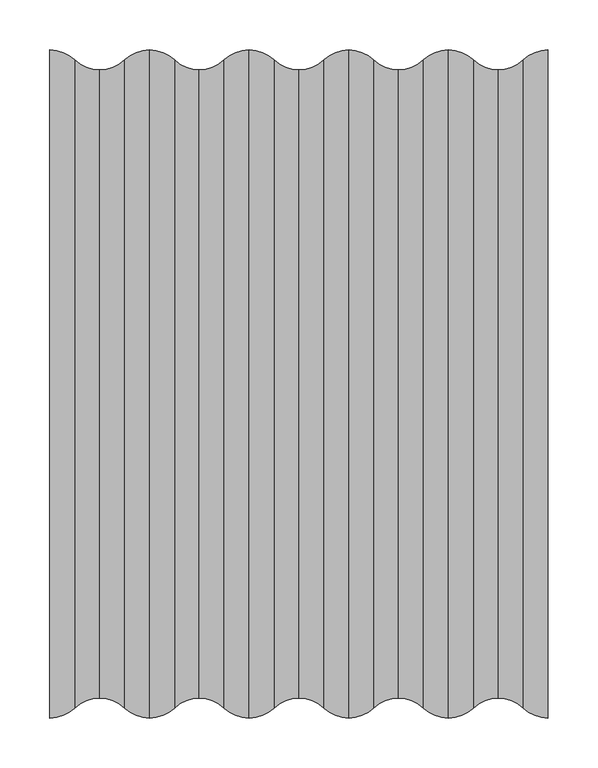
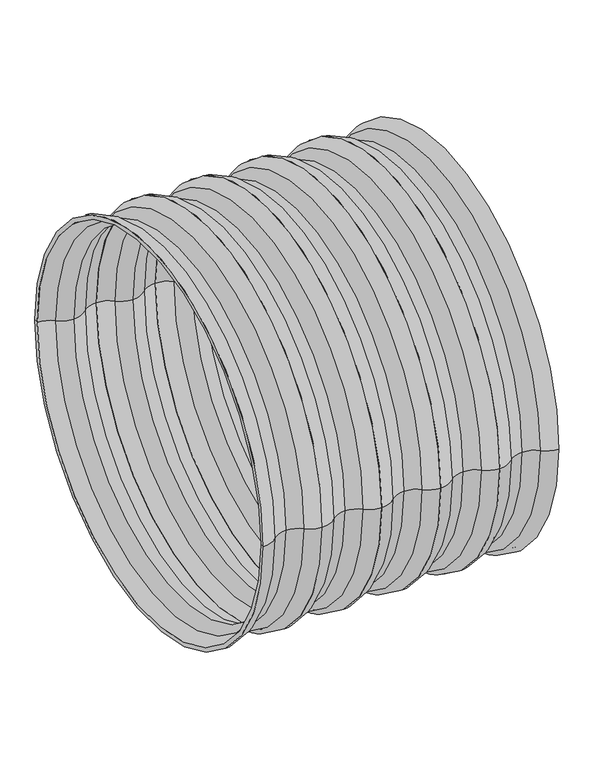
"""IFC4 building model written with IfcOpenShell, lengths in millimetres: pipe fitting geometry, Z_PIF_UN_Q-Bic_Plus_Shaft_Pipe_Wavin_(nested) : PP, RAL8012, ø600mm."""

import ifcopenshell
import ifcopenshell.guid

model = None  # the IFC model being written
_history = None  # IfcOwnerHistory: only IFC2X3 demands one
_inside = {}  # id of a spatial element -> (the spatial element, [elements in it])
_under = {}  # id of a project, library or spatial element -> (it, [spatial elements below it])
_declared = {}  # id of a project -> (the project, [libraries it declares])
_typed = {}  # id of a type object -> (the type object, [elements of that type])
_made_of = {}  # id of a material, layer set ... -> (it, [elements and type objects made of it])


def new_model(schema):
    """Start an empty IFC model of exactly this schema.

    Asked for "IFC4X3", IfcOpenShell would pick the latest addendum, in which some entities
    have other attributes; the version numbers below select the first issue.
    IFC2X3 requires an IfcOwnerHistory on every rooted entity: one is made here for all.
    """
    global model, _history
    if schema == "IFC4X3":
        model = ifcopenshell.file(schema_version=(4, 3, 0, 0))
    else:
        model = ifcopenshell.file(schema=schema)
    _inside.clear()
    _under.clear()
    _declared.clear()
    _typed.clear()
    _made_of.clear()
    _history = None
    if model.schema == "IFC2X3":
        org = make("IfcOrganization", Name="unknown")
        user = make(
            "IfcPersonAndOrganization",
            ThePerson=make("IfcPerson", FamilyName="unknown"),
            TheOrganization=org,
        )
        app = make(
            "IfcApplication",
            ApplicationDeveloper=org,
            Version="unknown",
            ApplicationFullName="unknown",
            ApplicationIdentifier="unknown",
        )
        _history = make(
            "IfcOwnerHistory",
            OwningUser=user,
            OwningApplication=app,
            ChangeAction="ADDED",
            CreationDate=0,
        )
    return model


def make(cls, **values):
    """One entity of the class cls with the attributes given. An attribute that is None is left unset."""
    return model.create_entity(
        cls, **{name: value for name, value in values.items() if value is not None}
    )


def rooted(cls, **values):
    """An entity with a GlobalId (a new one), such as an element, a storey or a relation."""
    return make(cls, GlobalId=ifcopenshell.guid.new(), OwnerHistory=_history, **values)


def si_unit(unit_type, name, prefix=None):
    """IfcSIUnit, for example si_unit("LENGTHUNIT", "METRE", prefix="MILLI")."""
    return make("IfcSIUnit", UnitType=unit_type, Prefix=prefix, Name=name)


def assignment(units):
    """IfcUnitAssignment: the units of a project."""
    return None if units is None else make("IfcUnitAssignment", Units=units)


def point(xyz):
    """IfcCartesianPoint."""
    return None if xyz is None else make("IfcCartesianPoint", Coordinates=xyz)


def direction(xyz):
    """IfcDirection."""
    return None if xyz is None else make("IfcDirection", DirectionRatios=xyz)


def frame(location, z_axis=None, x_axis=None):
    """IfcAxis2Placement3D, a coordinate frame: its origin and axes. An axis left out is left unset."""
    return make(
        "IfcAxis2Placement3D",
        Location=point(location),
        Axis=direction(z_axis),
        RefDirection=direction(x_axis),
    )


def origin():
    """The frame at (0, 0, 0) with its axes left unset."""
    return frame((0.0, 0.0, 0.0))


def place(relative_to, where):
    """IfcLocalPlacement: puts the frame where relative to a parent placement (None: the world)."""
    return make(
        "IfcLocalPlacement", PlacementRelTo=relative_to, RelativePlacement=where
    )


def context(
    kind, dimensions, precision=None, world=None, true_north=None, identifier=None
):
    """IfcGeometricRepresentationContext, for example the 3D "Model" context."""
    return make(
        "IfcGeometricRepresentationContext",
        ContextIdentifier=identifier,
        ContextType=kind,
        CoordinateSpaceDimension=dimensions,
        Precision=precision,
        WorldCoordinateSystem=world,
        TrueNorth=true_north,
    )


def project(units=None, contexts=None):
    """IfcProject with its units and contexts."""
    return rooted(
        "IfcProject",
        Name="project",
        RepresentationContexts=contexts,
        UnitsInContext=assignment(units),
    )


def spatial(cls, under=None, at=None, **own):
    """A site, building, storey or space (cls), placed at a placement, below another one or the project."""
    s = rooted(cls, ObjectPlacement=at, **own)
    if under is not None:
        _under.setdefault(under.id(), (under, []))[1].append(s)
    return s


def circle_curve(where, radius):
    """IfcCircle in the frame where."""
    return make("IfcCircle", Position=where, Radius=radius)


def ellipse_curve(where, semi_axis1, semi_axis2):
    """IfcEllipse in the frame where."""
    return make(
        "IfcEllipse", Position=where, SemiAxis1=semi_axis1, SemiAxis2=semi_axis2
    )


def trimmed(basis, trim1, trim2, sense, master):
    """IfcTrimmedCurve: the piece of a basis curve between two trims."""
    return make(
        "IfcTrimmedCurve",
        BasisCurve=basis,
        Trim1=trim1,
        Trim2=trim2,
        SenseAgreement=sense,
        MasterRepresentation=master,
    )


def shape(context_of_items, identifier, shape_type, items):
    """IfcShapeRepresentation: the items that make up one representation, for example the "Body"."""
    return make(
        "IfcShapeRepresentation",
        ContextOfItems=context_of_items,
        RepresentationIdentifier=identifier,
        RepresentationType=shape_type,
        Items=items,
    )


def source(mapping_origin, context_of_items, identifier, shape_type, items):
    """IfcRepresentationMap: a shape defined once, which mapped items show again and again."""
    return make(
        "IfcRepresentationMap",
        MappingOrigin=mapping_origin,
        MappedRepresentation=shape(context_of_items, identifier, shape_type, items),
    )


def transform(
    local_origin,
    x_axis=None,
    y_axis=None,
    z_axis=None,
    scale=None,
    scale2=None,
    scale3=None,
    uniform=True,
):
    """IfcCartesianTransformationOperator3D, or its non-uniform kind. x_axis, y_axis, z_axis: its Axis1, 2, 3."""
    if uniform:
        return make(
            "IfcCartesianTransformationOperator3D",
            Axis1=direction(x_axis),
            Axis2=direction(y_axis),
            LocalOrigin=point(local_origin),
            Scale=scale,
            Axis3=direction(z_axis),
        )
    return make(
        "IfcCartesianTransformationOperator3DnonUniform",
        Axis1=direction(x_axis),
        Axis2=direction(y_axis),
        LocalOrigin=point(local_origin),
        Scale=scale,
        Axis3=direction(z_axis),
        Scale2=scale2,
        Scale3=scale3,
    )


def mapped(mapping_source, mapping_target):
    """IfcMappedItem: shows the shape of a source again, moved by a transform."""
    return make(
        "IfcMappedItem", MappingSource=mapping_source, MappingTarget=mapping_target
    )


def made_of(thing, what):
    """Note that an element or type object is made of a material, layer set ...; save() writes the relation."""
    if what is not None:
        _made_of.setdefault(what.id(), (what, []))[1].append(thing)
    return thing


def element(
    cls,
    number,
    at=None,
    inside=None,
    cuts=None,
    type_object=None,
    material=None,
    context=None,
    identifier="Body",
    shape_type=None,
    held_by="IfcProductDefinitionShape",
    body=None,
    shapes=None,
    **own,
):
    """One element of the class cls, such as IfcWall. Its Tag is "e" and its number.

    at: its placement. inside: the storey or other place that contains it. cuts: it is an
    opening in that element (IfcRelVoidsElement). A single representation is given by context,
    identifier, shape_type and body (its items); several are given by shapes. held_by: the class
    of the entity that holds the representations. save() writes the other relations.
    """
    e = rooted(cls, Tag="e%d" % number, ObjectPlacement=at, **own)
    if body is not None:
        shapes = [shape(context, identifier, shape_type, body)]
    if shapes is not None:
        e.Representation = make(held_by, Representations=shapes)
    if inside is not None:
        _inside.setdefault(inside.id(), (inside, []))[1].append(e)
    if cuts is not None:
        rooted(
            "IfcRelVoidsElement", RelatingBuildingElement=cuts, RelatedOpeningElement=e
        )
    if type_object is not None:
        _typed.setdefault(type_object.id(), (type_object, []))[1].append(e)
    return made_of(e, material)


def aggregate(whole, parts):
    """IfcRelAggregates: a whole, such as a stair, and the parts it consists of."""
    return rooted("IfcRelAggregates", RelatingObject=whole, RelatedObjects=parts)


def save(model, path):
    """Write the relations noted so far, then the file.

    IfcRelAggregates (storeys below a building ...), IfcRelContainedInSpatialStructure (elements
    in a storey), IfcRelDefinesByType, IfcRelAssociatesMaterial and IfcRelDeclares: one each for
    every whole, place, type object, material and project.
    """
    for whole, parts in _under.values():
        aggregate(whole, parts)
    for where, things in _inside.values():
        rooted(
            "IfcRelContainedInSpatialStructure",
            RelatedElements=things,
            RelatingStructure=where,
        )
    for kind, things in _typed.values():
        rooted("IfcRelDefinesByType", RelatedObjects=things, RelatingType=kind)
    for what, things in _made_of.values():
        rooted("IfcRelAssociatesMaterial", RelatedObjects=things, RelatingMaterial=what)
    for by, libraries in _declared.values():
        rooted("IfcRelDeclares", RelatingContext=by, RelatedDefinitions=libraries)
    model.write(path)


def plane_surface(at):
    """IfcPlane: the flat surface through the origin of the frame at, square to its z axis."""
    return make("IfcPlane", Position=at)


def revolved_surface(curve, axis_point, axis_direction):
    """IfcSurfaceOfRevolution: the curve turned about the line through axis_point along axis_direction."""
    return make(
        "IfcSurfaceOfRevolution",
        SweptCurve=make("IfcArbitraryOpenProfileDef", ProfileType="CURVE", Curve=curve),
        AxisPosition=make("IfcAxis1Placement", Location=point(axis_point), Axis=direction(axis_direction)),
    )


def advanced_brep(points, edges, surfaces, faces):
    """IfcAdvancedBrep: a solid bounded by faces that lie on surfaces and meet in shared edges.

    An edge is (start, end): straight between two places in points (the first is 0);
    or (start, end, curve); or (start, end, curve, False) where it runs against its curve.
    A face is (place in surfaces, loops), or (place, loops, False) where it looks against
    its surface's normal. A loop lists edges by number (the first is 1), with a minus sign
    where the edge is run from its end to its start. The first loop is the outer one.
    """
    corners = [point(p) for p in points]
    vertices = [make("IfcVertexPoint", VertexGeometry=c) for c in corners]
    made = []
    for start, end, *more in edges:
        made.append(
            make(
                "IfcEdgeCurve",
                EdgeStart=vertices[start],
                EdgeEnd=vertices[end],
                EdgeGeometry=more[0] if more else make("IfcPolyline", Points=[corners[start], corners[end]]),
                SameSense=more[1] if len(more) > 1 else True,
            )
        )
    hull = []
    for where, loops, *sense in faces:
        bounds = []
        for j, loop in enumerate(loops):
            ring = [make("IfcOrientedEdge", EdgeElement=made[abs(k) - 1], Orientation=k > 0) for k in loop]
            bounds.append(
                make(
                    "IfcFaceOuterBound" if j == 0 else "IfcFaceBound",
                    Bound=make("IfcEdgeLoop", EdgeList=ring),
                    Orientation=True,
                )
            )
        hull.append(make("IfcAdvancedFace", Bounds=bounds, FaceSurface=surfaces[where], SameSense=sense[0] if sense else True))
    return make("IfcAdvancedBrep", Outer=make("IfcClosedShell", CfsFaces=hull))


def pipe_fitting_6d64b734(model_context):
    return source(origin(), model_context, "Body", "AdvancedBrep", [
        advanced_brep(
        [(800.0, -335.0, 0.0), (800.0, 335.0, 0.0), (825.0, 325.0, 0.0), (825.0, -325.0, 0.0), (800.0, -328.0, 0.0), (800.0, 328.0, 0.0), (825.0, -318.0, 0.0), (825.0, 318.0, 0.0), (850.0, -308.0, 0.0), (850.0, 308.0, 0.0), (875.0, -318.0, 0.0), (875.0, 318.0, 0.0), (900.0, -328.0, 0.0), (900.0, 328.0, 0.0), (900.0, -335.0, 0.0), (900.0, 335.0, 0.0), (875.0, -325.0, 0.0), (875.0, 325.0, 0.0), (850.0, -315.0, 0.0), (850.0, 315.0, 0.0)],
        [
            (0, 1, circle_curve(frame((800.0, 0.0, 0.0), z_axis=(1.0, 0.0, 0.0), x_axis=(0.0, 1.0, 0.0)), 335.0)),
            (1, 2, circle_curve(frame((800.0, 298.75, 0.0), z_axis=(0.0, 0.0, -1.0), x_axis=(1.0, 0.0, 0.0)), 36.25)),
            (2, 3, circle_curve(frame((825.0, 0.0, 0.0), z_axis=(-1.0, 0.0, 0.0), x_axis=(0.0, 1.0, 0.0)), 325.0)),
            (3, 0, circle_curve(frame((800.0, -298.75, 0.0), z_axis=(0.0, 0.0, -1.0), x_axis=(1.0, 0.0, 0.0)), 36.25)),
            (1, 0, circle_curve(frame((800.0, 0.0, 0.0), z_axis=(1.0, 0.0, 0.0), x_axis=(0.0, 1.0, 0.0)), 335.0)),
            (3, 2, circle_curve(frame((825.0, 0.0, 0.0), z_axis=(-1.0, 0.0, 0.0), x_axis=(0.0, 1.0, 0.0)), 325.0)),
            (4, 5, circle_curve(frame((800.0, 0.0, 0.0), z_axis=(1.0, 0.0, 0.0), x_axis=(0.0, 1.0, 0.0)), 328.0)),
            (5, 1),
            (0, 4),
            (5, 4, circle_curve(frame((800.0, 0.0, 0.0), z_axis=(1.0, 0.0, 0.0), x_axis=(0.0, 1.0, 0.0)), 328.0)),
            (6, 7, circle_curve(frame((825.0, 0.0, 0.0), z_axis=(1.0, 0.0, 0.0), x_axis=(0.0, 1.0, 0.0)), 318.0)),
            (7, 5, circle_curve(frame((800.0, 291.75, 0.0), z_axis=(0.0, 0.0, 1.0), x_axis=(1.0, 0.0, 0.0)), 36.25)),
            (4, 6, circle_curve(frame((800.0, -291.75, 0.0), z_axis=(0.0, 0.0, 1.0), x_axis=(1.0, 0.0, 0.0)), 36.25)),
            (7, 6, circle_curve(frame((825.0, 0.0, 0.0), z_axis=(1.0, 0.0, 0.0), x_axis=(0.0, 1.0, 0.0)), 318.0)),
            (8, 9, circle_curve(frame((850.0, 0.0, 0.0), z_axis=(1.0, 0.0, 0.0), x_axis=(0.0, 1.0, 0.0)), 308.0)),
            (9, 7, circle_curve(frame((850.0, 344.25, 0.0), z_axis=(0.0, 0.0, -1.0), x_axis=(1.0, 0.0, 0.0)), 36.25)),
            (6, 8, circle_curve(frame((850.0, -344.25, 0.0), z_axis=(0.0, 0.0, -1.0), x_axis=(1.0, 0.0, 0.0)), 36.25)),
            (9, 8, circle_curve(frame((850.0, 0.0, 0.0), z_axis=(1.0, 0.0, 0.0), x_axis=(0.0, 1.0, 0.0)), 308.0)),
            (10, 11, circle_curve(frame((875.0, 0.0, 0.0), z_axis=(1.0, 0.0, 0.0), x_axis=(0.0, 1.0, 0.0)), 318.0)),
            (11, 9, circle_curve(frame((850.0, 344.25, 0.0), z_axis=(0.0, 0.0, -1.0), x_axis=(1.0, 0.0, 0.0)), 36.25)),
            (8, 10, circle_curve(frame((850.0, -344.25, 0.0), z_axis=(0.0, 0.0, -1.0), x_axis=(1.0, 0.0, 0.0)), 36.25)),
            (11, 10, circle_curve(frame((875.0, 0.0, 0.0), z_axis=(1.0, 0.0, 0.0), x_axis=(0.0, 1.0, 0.0)), 318.0)),
            (12, 13, circle_curve(frame((900.0, 0.0, 0.0), z_axis=(1.0, 0.0, 0.0), x_axis=(0.0, 1.0, 0.0)), 328.0)),
            (13, 11, circle_curve(frame((900.0, 291.75, 0.0), z_axis=(0.0, 0.0, 1.0), x_axis=(1.0, 0.0, 0.0)), 36.25)),
            (10, 12, circle_curve(frame((900.0, -291.75, 0.0), z_axis=(0.0, 0.0, 1.0), x_axis=(1.0, 0.0, 0.0)), 36.25)),
            (13, 12, circle_curve(frame((900.0, 0.0, 0.0), z_axis=(1.0, 0.0, 0.0), x_axis=(0.0, 1.0, 0.0)), 328.0)),
            (14, 15, circle_curve(frame((900.0, 0.0, 0.0), z_axis=(1.0, 0.0, 0.0), x_axis=(0.0, 1.0, 0.0)), 335.0)),
            (15, 13),
            (12, 14),
            (15, 14, circle_curve(frame((900.0, 0.0, 0.0), z_axis=(1.0, 0.0, 0.0), x_axis=(0.0, 1.0, 0.0)), 335.0)),
            (16, 17, circle_curve(frame((875.0, 0.0, 0.0), z_axis=(1.0, 0.0, 0.0), x_axis=(0.0, 1.0, 0.0)), 325.0)),
            (17, 15, circle_curve(frame((900.0, 298.75, 0.0), z_axis=(0.0, 0.0, -1.0), x_axis=(1.0, 0.0, 0.0)), 36.25)),
            (14, 16, circle_curve(frame((900.0, -298.75, 0.0), z_axis=(0.0, 0.0, -1.0), x_axis=(1.0, 0.0, 0.0)), 36.25)),
            (17, 16, circle_curve(frame((875.0, 0.0, 0.0), z_axis=(1.0, 0.0, 0.0), x_axis=(0.0, 1.0, 0.0)), 325.0)),
            (18, 19, circle_curve(frame((850.0, 0.0, 0.0), z_axis=(1.0, 0.0, 0.0), x_axis=(0.0, 1.0, 0.0)), 315.0)),
            (19, 17, circle_curve(frame((850.0, 351.25, 0.0), z_axis=(0.0, 0.0, 1.0), x_axis=(1.0, 0.0, 0.0)), 36.25)),
            (16, 18, circle_curve(frame((850.0, -351.25, 0.0), z_axis=(0.0, 0.0, 1.0), x_axis=(1.0, 0.0, 0.0)), 36.25)),
            (19, 18, circle_curve(frame((850.0, 0.0, 0.0), z_axis=(1.0, 0.0, 0.0), x_axis=(0.0, 1.0, 0.0)), 315.0)),
            (2, 19, circle_curve(frame((850.0, 351.25, 0.0), z_axis=(0.0, 0.0, 1.0), x_axis=(1.0, 0.0, 0.0)), 36.25)),
            (18, 3, circle_curve(frame((850.0, -351.25, 0.0), z_axis=(0.0, 0.0, 1.0), x_axis=(1.0, 0.0, 0.0)), 36.25)),
        ],
        [
            revolved_surface(trimmed(ellipse_curve(frame((800.0, 298.75, 0.0), z_axis=(0.0, 0.0, 1.0), x_axis=(1.0, 0.0, 0.0)), 36.25, 36.25), [point((825.0, 325.0, 0.0))], [point((800.0, 335.0, 0.0))], True, "CARTESIAN"), (750.0, 0.0, 0.0), (-1.0, 0.0, 0.0)),
            plane_surface(frame((800.0, 0.0, 0.0), z_axis=(-1.0, 0.0, 0.0), x_axis=(0.0, 1.0, 0.0))),
            revolved_surface(trimmed(ellipse_curve(frame((800.0, 291.75, 0.0), z_axis=(0.0, 0.0, -1.0), x_axis=(1.0, 0.0, 0.0)), 36.25, 36.25), [point((800.0, 328.0, 0.0))], [point((825.0, 318.0, 0.0))], True, "CARTESIAN"), (750.0, 0.0, 0.0), (-1.0, 0.0, 0.0)),
            revolved_surface(trimmed(ellipse_curve(frame((850.0, 344.25, 0.0), z_axis=(0.0, 0.0, 1.0), x_axis=(1.0, 0.0, 0.0)), 36.25, 36.25), [point((825.0, 318.0, 0.0))], [point((850.0, 308.0, 0.0))], True, "CARTESIAN"), (750.0, 0.0, 0.0), (-1.0, 0.0, 0.0)),
            revolved_surface(trimmed(ellipse_curve(frame((850.0, 344.25, 0.0), z_axis=(0.0, 0.0, 1.0), x_axis=(1.0, 0.0, 0.0)), 36.25, 36.25), [point((850.0, 308.0, 0.0))], [point((875.0, 318.0, 0.0))], True, "CARTESIAN"), (750.0, 0.0, 0.0), (-1.0, 0.0, 0.0)),
            revolved_surface(trimmed(ellipse_curve(frame((900.0, 291.75, 0.0), z_axis=(0.0, 0.0, -1.0), x_axis=(1.0, 0.0, 0.0)), 36.25, 36.25), [point((875.0, 318.0, 0.0))], [point((900.0, 328.0, 0.0))], True, "CARTESIAN"), (750.0, 0.0, 0.0), (-1.0, 0.0, 0.0)),
            plane_surface(frame((900.0, 0.0, 0.0), z_axis=(1.0, 0.0, 0.0), x_axis=(0.0, 1.0, 0.0))),
            revolved_surface(trimmed(ellipse_curve(frame((900.0, 298.75, 0.0), z_axis=(0.0, 0.0, 1.0), x_axis=(1.0, 0.0, 0.0)), 36.25, 36.25), [point((900.0, 335.0, 0.0))], [point((875.0, 325.0, 0.0))], True, "CARTESIAN"), (750.0, 0.0, 0.0), (-1.0, 0.0, 0.0)),
            revolved_surface(trimmed(ellipse_curve(frame((850.0, 351.25, 0.0), z_axis=(0.0, 0.0, -1.0), x_axis=(1.0, 0.0, 0.0)), 36.25, 36.25), [point((875.0, 325.0, 0.0))], [point((850.0, 315.0, 0.0))], True, "CARTESIAN"), (750.0, 0.0, 0.0), (-1.0, 0.0, 0.0)),
            revolved_surface(trimmed(ellipse_curve(frame((850.0, 351.25, 0.0), z_axis=(0.0, 0.0, -1.0), x_axis=(1.0, 0.0, 0.0)), 36.25, 36.25), [point((850.0, 315.0, 0.0))], [point((825.0, 325.0, 0.0))], True, "CARTESIAN"), (750.0, 0.0, 0.0), (-1.0, 0.0, 0.0)),
        ],
        [
            (0, [[1, 2, 3, 4]]),
            (0, [[5, -4, 6, -2]]),
            (1, [[7, 8, -1, 9]]),
            (1, [[10, -9, -5, -8]]),
            (2, [[11, 12, -7, 13]]),
            (2, [[14, -13, -10, -12]]),
            (3, [[15, 16, -11, 17]]),
            (3, [[18, -17, -14, -16]]),
            (4, [[19, 20, -15, 21]]),
            (4, [[22, -21, -18, -20]]),
            (5, [[23, 24, -19, 25]]),
            (5, [[26, -25, -22, -24]]),
            (6, [[27, 28, -23, 29]]),
            (6, [[30, -29, -26, -28]]),
            (7, [[31, 32, -27, 33]]),
            (7, [[34, -33, -30, -32]]),
            (8, [[35, 36, -31, 37]]),
            (8, [[38, -37, -34, -36]]),
            (9, [[-3, 39, -35, 40]]),
            (9, [[-6, -40, -38, -39]]),
        ],
    ),
        advanced_brep(
        [(700.0, -335.0, 0.0), (700.0, 335.0, 0.0), (725.0, 325.0, 0.0), (725.0, -325.0, 0.0), (700.0, -328.0, 0.0), (700.0, 328.0, 0.0), (725.0, -318.0, 0.0), (725.0, 318.0, 0.0), (750.0, -308.0, 0.0), (750.0, 308.0, 0.0), (775.0, -318.0, 0.0), (775.0, 318.0, 0.0), (800.0, -328.0, 0.0), (800.0, 328.0, 0.0), (800.0, -335.0, 0.0), (800.0, 335.0, 0.0), (775.0, -325.0, 0.0), (775.0, 325.0, 0.0), (750.0, -315.0, 0.0), (750.0, 315.0, 0.0)],
        [
            (0, 1, circle_curve(frame((700.0, 0.0, 0.0), z_axis=(1.0, 0.0, 0.0), x_axis=(0.0, 1.0, 0.0)), 335.0)),
            (1, 2, circle_curve(frame((700.0, 298.75, 0.0), z_axis=(0.0, 0.0, -1.0), x_axis=(1.0, 0.0, 0.0)), 36.25)),
            (2, 3, circle_curve(frame((725.0, 0.0, 0.0), z_axis=(-1.0, 0.0, 0.0), x_axis=(0.0, 1.0, 0.0)), 325.0)),
            (3, 0, circle_curve(frame((700.0, -298.75, 0.0), z_axis=(0.0, 0.0, -1.0), x_axis=(1.0, 0.0, 0.0)), 36.25)),
            (1, 0, circle_curve(frame((700.0, 0.0, 0.0), z_axis=(1.0, 0.0, 0.0), x_axis=(0.0, 1.0, 0.0)), 335.0)),
            (3, 2, circle_curve(frame((725.0, 0.0, 0.0), z_axis=(-1.0, 0.0, 0.0), x_axis=(0.0, 1.0, 0.0)), 325.0)),
            (4, 5, circle_curve(frame((700.0, 0.0, 0.0), z_axis=(1.0, 0.0, 0.0), x_axis=(0.0, 1.0, 0.0)), 328.0)),
            (5, 1),
            (0, 4),
            (5, 4, circle_curve(frame((700.0, 0.0, 0.0), z_axis=(1.0, 0.0, 0.0), x_axis=(0.0, 1.0, 0.0)), 328.0)),
            (6, 7, circle_curve(frame((725.0, 0.0, 0.0), z_axis=(1.0, 0.0, 0.0), x_axis=(0.0, 1.0, 0.0)), 318.0)),
            (7, 5, circle_curve(frame((700.0, 291.75, 0.0), z_axis=(0.0, 0.0, 1.0), x_axis=(1.0, 0.0, 0.0)), 36.25)),
            (4, 6, circle_curve(frame((700.0, -291.75, 0.0), z_axis=(0.0, 0.0, 1.0), x_axis=(1.0, 0.0, 0.0)), 36.25)),
            (7, 6, circle_curve(frame((725.0, 0.0, 0.0), z_axis=(1.0, 0.0, 0.0), x_axis=(0.0, 1.0, 0.0)), 318.0)),
            (8, 9, circle_curve(frame((750.0, 0.0, 0.0), z_axis=(1.0, 0.0, 0.0), x_axis=(0.0, 1.0, 0.0)), 308.0)),
            (9, 7, circle_curve(frame((750.0, 344.25, 0.0), z_axis=(0.0, 0.0, -1.0), x_axis=(1.0, 0.0, 0.0)), 36.25)),
            (6, 8, circle_curve(frame((750.0, -344.25, 0.0), z_axis=(0.0, 0.0, -1.0), x_axis=(1.0, 0.0, 0.0)), 36.25)),
            (9, 8, circle_curve(frame((750.0, 0.0, 0.0), z_axis=(1.0, 0.0, 0.0), x_axis=(0.0, 1.0, 0.0)), 308.0)),
            (10, 11, circle_curve(frame((775.0, 0.0, 0.0), z_axis=(1.0, 0.0, 0.0), x_axis=(0.0, 1.0, 0.0)), 318.0)),
            (11, 9, circle_curve(frame((750.0, 344.25, 0.0), z_axis=(0.0, 0.0, -1.0), x_axis=(1.0, 0.0, 0.0)), 36.25)),
            (8, 10, circle_curve(frame((750.0, -344.25, 0.0), z_axis=(0.0, 0.0, -1.0), x_axis=(1.0, 0.0, 0.0)), 36.25)),
            (11, 10, circle_curve(frame((775.0, 0.0, 0.0), z_axis=(1.0, 0.0, 0.0), x_axis=(0.0, 1.0, 0.0)), 318.0)),
            (12, 13, circle_curve(frame((800.0, 0.0, 0.0), z_axis=(1.0, 0.0, 0.0), x_axis=(0.0, 1.0, 0.0)), 328.0)),
            (13, 11, circle_curve(frame((800.0, 291.75, 0.0), z_axis=(0.0, 0.0, 1.0), x_axis=(1.0, 0.0, 0.0)), 36.25)),
            (10, 12, circle_curve(frame((800.0, -291.75, 0.0), z_axis=(0.0, 0.0, 1.0), x_axis=(1.0, 0.0, 0.0)), 36.25)),
            (13, 12, circle_curve(frame((800.0, 0.0, 0.0), z_axis=(1.0, 0.0, 0.0), x_axis=(0.0, 1.0, 0.0)), 328.0)),
            (14, 15, circle_curve(frame((800.0, 0.0, 0.0), z_axis=(1.0, 0.0, 0.0), x_axis=(0.0, 1.0, 0.0)), 335.0)),
            (15, 13),
            (12, 14),
            (15, 14, circle_curve(frame((800.0, 0.0, 0.0), z_axis=(1.0, 0.0, 0.0), x_axis=(0.0, 1.0, 0.0)), 335.0)),
            (16, 17, circle_curve(frame((775.0, 0.0, 0.0), z_axis=(1.0, 0.0, 0.0), x_axis=(0.0, 1.0, 0.0)), 325.0)),
            (17, 15, circle_curve(frame((800.0, 298.75, 0.0), z_axis=(0.0, 0.0, -1.0), x_axis=(1.0, 0.0, 0.0)), 36.25)),
            (14, 16, circle_curve(frame((800.0, -298.75, 0.0), z_axis=(0.0, 0.0, -1.0), x_axis=(1.0, 0.0, 0.0)), 36.25)),
            (17, 16, circle_curve(frame((775.0, 0.0, 0.0), z_axis=(1.0, 0.0, 0.0), x_axis=(0.0, 1.0, 0.0)), 325.0)),
            (18, 19, circle_curve(frame((750.0, 0.0, 0.0), z_axis=(1.0, 0.0, 0.0), x_axis=(0.0, 1.0, 0.0)), 315.0)),
            (19, 17, circle_curve(frame((750.0, 351.25, 0.0), z_axis=(0.0, 0.0, 1.0), x_axis=(1.0, 0.0, 0.0)), 36.25)),
            (16, 18, circle_curve(frame((750.0, -351.25, 0.0), z_axis=(0.0, 0.0, 1.0), x_axis=(1.0, 0.0, 0.0)), 36.25)),
            (19, 18, circle_curve(frame((750.0, 0.0, 0.0), z_axis=(1.0, 0.0, 0.0), x_axis=(0.0, 1.0, 0.0)), 315.0)),
            (2, 19, circle_curve(frame((750.0, 351.25, 0.0), z_axis=(0.0, 0.0, 1.0), x_axis=(1.0, 0.0, 0.0)), 36.25)),
            (18, 3, circle_curve(frame((750.0, -351.25, 0.0), z_axis=(0.0, 0.0, 1.0), x_axis=(1.0, 0.0, 0.0)), 36.25)),
        ],
        [
            revolved_surface(trimmed(ellipse_curve(frame((700.0, 298.75, 0.0), z_axis=(0.0, 0.0, 1.0), x_axis=(1.0, 0.0, 0.0)), 36.25, 36.25), [point((725.0, 325.0, 0.0))], [point((700.0, 335.0, 0.0))], True, "CARTESIAN"), (650.0, 0.0, 0.0), (-1.0, 0.0, 0.0)),
            plane_surface(frame((700.0, 0.0, 0.0), z_axis=(-1.0, 0.0, 0.0), x_axis=(0.0, 1.0, 0.0))),
            revolved_surface(trimmed(ellipse_curve(frame((700.0, 291.75, 0.0), z_axis=(0.0, 0.0, -1.0), x_axis=(1.0, 0.0, 0.0)), 36.25, 36.25), [point((700.0, 328.0, 0.0))], [point((725.0, 318.0, 0.0))], True, "CARTESIAN"), (650.0, 0.0, 0.0), (-1.0, 0.0, 0.0)),
            revolved_surface(trimmed(ellipse_curve(frame((750.0, 344.25, 0.0), z_axis=(0.0, 0.0, 1.0), x_axis=(1.0, 0.0, 0.0)), 36.25, 36.25), [point((725.0, 318.0, 0.0))], [point((750.0, 308.0, 0.0))], True, "CARTESIAN"), (650.0, 0.0, 0.0), (-1.0, 0.0, 0.0)),
            revolved_surface(trimmed(ellipse_curve(frame((750.0, 344.25, 0.0), z_axis=(0.0, 0.0, 1.0), x_axis=(1.0, 0.0, 0.0)), 36.25, 36.25), [point((750.0, 308.0, 0.0))], [point((775.0, 318.0, 0.0))], True, "CARTESIAN"), (650.0, 0.0, 0.0), (-1.0, 0.0, 0.0)),
            revolved_surface(trimmed(ellipse_curve(frame((800.0, 291.75, 0.0), z_axis=(0.0, 0.0, -1.0), x_axis=(1.0, 0.0, 0.0)), 36.25, 36.25), [point((775.0, 318.0, 0.0))], [point((800.0, 328.0, 0.0))], True, "CARTESIAN"), (650.0, 0.0, 0.0), (-1.0, 0.0, 0.0)),
            plane_surface(frame((800.0, 0.0, 0.0), z_axis=(1.0, 0.0, 0.0), x_axis=(0.0, 1.0, 0.0))),
            revolved_surface(trimmed(ellipse_curve(frame((800.0, 298.75, 0.0), z_axis=(0.0, 0.0, 1.0), x_axis=(1.0, 0.0, 0.0)), 36.25, 36.25), [point((800.0, 335.0, 0.0))], [point((775.0, 325.0, 0.0))], True, "CARTESIAN"), (650.0, 0.0, 0.0), (-1.0, 0.0, 0.0)),
            revolved_surface(trimmed(ellipse_curve(frame((750.0, 351.25, 0.0), z_axis=(0.0, 0.0, -1.0), x_axis=(1.0, 0.0, 0.0)), 36.25, 36.25), [point((775.0, 325.0, 0.0))], [point((750.0, 315.0, 0.0))], True, "CARTESIAN"), (650.0, 0.0, 0.0), (-1.0, 0.0, 0.0)),
            revolved_surface(trimmed(ellipse_curve(frame((750.0, 351.25, 0.0), z_axis=(0.0, 0.0, -1.0), x_axis=(1.0, 0.0, 0.0)), 36.25, 36.25), [point((750.0, 315.0, 0.0))], [point((725.0, 325.0, 0.0))], True, "CARTESIAN"), (650.0, 0.0, 0.0), (-1.0, 0.0, 0.0)),
        ],
        [
            (0, [[1, 2, 3, 4]]),
            (0, [[5, -4, 6, -2]]),
            (1, [[7, 8, -1, 9]]),
            (1, [[10, -9, -5, -8]]),
            (2, [[11, 12, -7, 13]]),
            (2, [[14, -13, -10, -12]]),
            (3, [[15, 16, -11, 17]]),
            (3, [[18, -17, -14, -16]]),
            (4, [[19, 20, -15, 21]]),
            (4, [[22, -21, -18, -20]]),
            (5, [[23, 24, -19, 25]]),
            (5, [[26, -25, -22, -24]]),
            (6, [[27, 28, -23, 29]]),
            (6, [[30, -29, -26, -28]]),
            (7, [[31, 32, -27, 33]]),
            (7, [[34, -33, -30, -32]]),
            (8, [[35, 36, -31, 37]]),
            (8, [[38, -37, -34, -36]]),
            (9, [[-3, 39, -35, 40]]),
            (9, [[-6, -40, -38, -39]]),
        ],
    ),
        advanced_brep(
        [(600.0, -335.0, 0.0), (600.0, 335.0, 0.0), (625.0, 325.0, 0.0), (625.0, -325.0, 0.0), (600.0, -328.0, 0.0), (600.0, 328.0, 0.0), (625.0, -318.0, 0.0), (625.0, 318.0, 0.0), (650.0, -308.0, 0.0), (650.0, 308.0, 0.0), (675.0, -318.0, 0.0), (675.0, 318.0, 0.0), (700.0, -328.0, 0.0), (700.0, 328.0, 0.0), (700.0, -335.0, 0.0), (700.0, 335.0, 0.0), (675.0, -325.0, 0.0), (675.0, 325.0, 0.0), (650.0, -315.0, 0.0), (650.0, 315.0, 0.0)],
        [
            (0, 1, circle_curve(frame((600.0, 0.0, 0.0), z_axis=(1.0, 0.0, 0.0), x_axis=(0.0, 1.0, 0.0)), 335.0)),
            (1, 2, circle_curve(frame((600.0, 298.75, 0.0), z_axis=(0.0, 0.0, -1.0), x_axis=(1.0, 0.0, 0.0)), 36.25)),
            (2, 3, circle_curve(frame((625.0, 0.0, 0.0), z_axis=(-1.0, 0.0, 0.0), x_axis=(0.0, 1.0, 0.0)), 325.0)),
            (3, 0, circle_curve(frame((600.0, -298.75, 0.0), z_axis=(0.0, 0.0, -1.0), x_axis=(1.0, 0.0, 0.0)), 36.25)),
            (1, 0, circle_curve(frame((600.0, 0.0, 0.0), z_axis=(1.0, 0.0, 0.0), x_axis=(0.0, 1.0, 0.0)), 335.0)),
            (3, 2, circle_curve(frame((625.0, 0.0, 0.0), z_axis=(-1.0, 0.0, 0.0), x_axis=(0.0, 1.0, 0.0)), 325.0)),
            (4, 5, circle_curve(frame((600.0, 0.0, 0.0), z_axis=(1.0, 0.0, 0.0), x_axis=(0.0, 1.0, 0.0)), 328.0)),
            (5, 1),
            (0, 4),
            (5, 4, circle_curve(frame((600.0, 0.0, 0.0), z_axis=(1.0, 0.0, 0.0), x_axis=(0.0, 1.0, 0.0)), 328.0)),
            (6, 7, circle_curve(frame((625.0, 0.0, 0.0), z_axis=(1.0, 0.0, 0.0), x_axis=(0.0, 1.0, 0.0)), 318.0)),
            (7, 5, circle_curve(frame((600.0, 291.75, 0.0), z_axis=(0.0, 0.0, 1.0), x_axis=(1.0, 0.0, 0.0)), 36.25)),
            (4, 6, circle_curve(frame((600.0, -291.75, 0.0), z_axis=(0.0, 0.0, 1.0), x_axis=(1.0, 0.0, 0.0)), 36.25)),
            (7, 6, circle_curve(frame((625.0, 0.0, 0.0), z_axis=(1.0, 0.0, 0.0), x_axis=(0.0, 1.0, 0.0)), 318.0)),
            (8, 9, circle_curve(frame((650.0, 0.0, 0.0), z_axis=(1.0, 0.0, 0.0), x_axis=(0.0, 1.0, 0.0)), 308.0)),
            (9, 7, circle_curve(frame((650.0, 344.25, 0.0), z_axis=(0.0, 0.0, -1.0), x_axis=(1.0, 0.0, 0.0)), 36.25)),
            (6, 8, circle_curve(frame((650.0, -344.25, 0.0), z_axis=(0.0, 0.0, -1.0), x_axis=(1.0, 0.0, 0.0)), 36.25)),
            (9, 8, circle_curve(frame((650.0, 0.0, 0.0), z_axis=(1.0, 0.0, 0.0), x_axis=(0.0, 1.0, 0.0)), 308.0)),
            (10, 11, circle_curve(frame((675.0, 0.0, 0.0), z_axis=(1.0, 0.0, 0.0), x_axis=(0.0, 1.0, 0.0)), 318.0)),
            (11, 9, circle_curve(frame((650.0, 344.25, 0.0), z_axis=(0.0, 0.0, -1.0), x_axis=(1.0, 0.0, 0.0)), 36.25)),
            (8, 10, circle_curve(frame((650.0, -344.25, 0.0), z_axis=(0.0, 0.0, -1.0), x_axis=(1.0, 0.0, 0.0)), 36.25)),
            (11, 10, circle_curve(frame((675.0, 0.0, 0.0), z_axis=(1.0, 0.0, 0.0), x_axis=(0.0, 1.0, 0.0)), 318.0)),
            (12, 13, circle_curve(frame((700.0, 0.0, 0.0), z_axis=(1.0, 0.0, 0.0), x_axis=(0.0, 1.0, 0.0)), 328.0)),
            (13, 11, circle_curve(frame((700.0, 291.75, 0.0), z_axis=(0.0, 0.0, 1.0), x_axis=(1.0, 0.0, 0.0)), 36.25)),
            (10, 12, circle_curve(frame((700.0, -291.75, 0.0), z_axis=(0.0, 0.0, 1.0), x_axis=(1.0, 0.0, 0.0)), 36.25)),
            (13, 12, circle_curve(frame((700.0, 0.0, 0.0), z_axis=(1.0, 0.0, 0.0), x_axis=(0.0, 1.0, 0.0)), 328.0)),
            (14, 15, circle_curve(frame((700.0, 0.0, 0.0), z_axis=(1.0, 0.0, 0.0), x_axis=(0.0, 1.0, 0.0)), 335.0)),
            (15, 13),
            (12, 14),
            (15, 14, circle_curve(frame((700.0, 0.0, 0.0), z_axis=(1.0, 0.0, 0.0), x_axis=(0.0, 1.0, 0.0)), 335.0)),
            (16, 17, circle_curve(frame((675.0, 0.0, 0.0), z_axis=(1.0, 0.0, 0.0), x_axis=(0.0, 1.0, 0.0)), 325.0)),
            (17, 15, circle_curve(frame((700.0, 298.75, 0.0), z_axis=(0.0, 0.0, -1.0), x_axis=(1.0, 0.0, 0.0)), 36.25)),
            (14, 16, circle_curve(frame((700.0, -298.75, 0.0), z_axis=(0.0, 0.0, -1.0), x_axis=(1.0, 0.0, 0.0)), 36.25)),
            (17, 16, circle_curve(frame((675.0, 0.0, 0.0), z_axis=(1.0, 0.0, 0.0), x_axis=(0.0, 1.0, 0.0)), 325.0)),
            (18, 19, circle_curve(frame((650.0, 0.0, 0.0), z_axis=(1.0, 0.0, 0.0), x_axis=(0.0, 1.0, 0.0)), 315.0)),
            (19, 17, circle_curve(frame((650.0, 351.25, 0.0), z_axis=(0.0, 0.0, 1.0), x_axis=(1.0, 0.0, 0.0)), 36.25)),
            (16, 18, circle_curve(frame((650.0, -351.25, 0.0), z_axis=(0.0, 0.0, 1.0), x_axis=(1.0, 0.0, 0.0)), 36.25)),
            (19, 18, circle_curve(frame((650.0, 0.0, 0.0), z_axis=(1.0, 0.0, 0.0), x_axis=(0.0, 1.0, 0.0)), 315.0)),
            (2, 19, circle_curve(frame((650.0, 351.25, 0.0), z_axis=(0.0, 0.0, 1.0), x_axis=(1.0, 0.0, 0.0)), 36.25)),
            (18, 3, circle_curve(frame((650.0, -351.25, 0.0), z_axis=(0.0, 0.0, 1.0), x_axis=(1.0, 0.0, 0.0)), 36.25)),
        ],
        [
            revolved_surface(trimmed(ellipse_curve(frame((600.0, 298.75, 0.0), z_axis=(0.0, 0.0, 1.0), x_axis=(1.0, 0.0, 0.0)), 36.25, 36.25), [point((625.0, 325.0, 0.0))], [point((600.0, 335.0, 0.0))], True, "CARTESIAN"), (550.0, 0.0, 0.0), (-1.0, 0.0, 0.0)),
            plane_surface(frame((600.0, 0.0, 0.0), z_axis=(-1.0, 0.0, 0.0), x_axis=(0.0, 1.0, 0.0))),
            revolved_surface(trimmed(ellipse_curve(frame((600.0, 291.75, 0.0), z_axis=(0.0, 0.0, -1.0), x_axis=(1.0, 0.0, 0.0)), 36.25, 36.25), [point((600.0, 328.0, 0.0))], [point((625.0, 318.0, 0.0))], True, "CARTESIAN"), (550.0, 0.0, 0.0), (-1.0, 0.0, 0.0)),
            revolved_surface(trimmed(ellipse_curve(frame((650.0, 344.25, 0.0), z_axis=(0.0, 0.0, 1.0), x_axis=(1.0, 0.0, 0.0)), 36.25, 36.25), [point((625.0, 318.0, 0.0))], [point((650.0, 308.0, 0.0))], True, "CARTESIAN"), (550.0, 0.0, 0.0), (-1.0, 0.0, 0.0)),
            revolved_surface(trimmed(ellipse_curve(frame((650.0, 344.25, 0.0), z_axis=(0.0, 0.0, 1.0), x_axis=(1.0, 0.0, 0.0)), 36.25, 36.25), [point((650.0, 308.0, 0.0))], [point((675.0, 318.0, 0.0))], True, "CARTESIAN"), (550.0, 0.0, 0.0), (-1.0, 0.0, 0.0)),
            revolved_surface(trimmed(ellipse_curve(frame((700.0, 291.75, 0.0), z_axis=(0.0, 0.0, -1.0), x_axis=(1.0, 0.0, 0.0)), 36.25, 36.25), [point((675.0, 318.0, 0.0))], [point((700.0, 328.0, 0.0))], True, "CARTESIAN"), (550.0, 0.0, 0.0), (-1.0, 0.0, 0.0)),
            plane_surface(frame((700.0, 0.0, 0.0), z_axis=(1.0, 0.0, 0.0), x_axis=(0.0, 1.0, 0.0))),
            revolved_surface(trimmed(ellipse_curve(frame((700.0, 298.75, 0.0), z_axis=(0.0, 0.0, 1.0), x_axis=(1.0, 0.0, 0.0)), 36.25, 36.25), [point((700.0, 335.0, 0.0))], [point((675.0, 325.0, 0.0))], True, "CARTESIAN"), (550.0, 0.0, 0.0), (-1.0, 0.0, 0.0)),
            revolved_surface(trimmed(ellipse_curve(frame((650.0, 351.25, 0.0), z_axis=(0.0, 0.0, -1.0), x_axis=(1.0, 0.0, 0.0)), 36.25, 36.25), [point((675.0, 325.0, 0.0))], [point((650.0, 315.0, 0.0))], True, "CARTESIAN"), (550.0, 0.0, 0.0), (-1.0, 0.0, 0.0)),
            revolved_surface(trimmed(ellipse_curve(frame((650.0, 351.25, 0.0), z_axis=(0.0, 0.0, -1.0), x_axis=(1.0, 0.0, 0.0)), 36.25, 36.25), [point((650.0, 315.0, 0.0))], [point((625.0, 325.0, 0.0))], True, "CARTESIAN"), (550.0, 0.0, 0.0), (-1.0, 0.0, 0.0)),
        ],
        [
            (0, [[1, 2, 3, 4]]),
            (0, [[5, -4, 6, -2]]),
            (1, [[7, 8, -1, 9]]),
            (1, [[10, -9, -5, -8]]),
            (2, [[11, 12, -7, 13]]),
            (2, [[14, -13, -10, -12]]),
            (3, [[15, 16, -11, 17]]),
            (3, [[18, -17, -14, -16]]),
            (4, [[19, 20, -15, 21]]),
            (4, [[22, -21, -18, -20]]),
            (5, [[23, 24, -19, 25]]),
            (5, [[26, -25, -22, -24]]),
            (6, [[27, 28, -23, 29]]),
            (6, [[30, -29, -26, -28]]),
            (7, [[31, 32, -27, 33]]),
            (7, [[34, -33, -30, -32]]),
            (8, [[35, 36, -31, 37]]),
            (8, [[38, -37, -34, -36]]),
            (9, [[-3, 39, -35, 40]]),
            (9, [[-6, -40, -38, -39]]),
        ],
    ),
        advanced_brep(
        [(500.0, -335.0, 0.0), (500.0, 335.0, 0.0), (525.0, 325.0, 0.0), (525.0, -325.0, 0.0), (500.0, -328.0, 0.0), (500.0, 328.0, 0.0), (525.0, -318.0, 0.0), (525.0, 318.0, 0.0), (550.0, -308.0, 0.0), (550.0, 308.0, 0.0), (575.0, -318.0, 0.0), (575.0, 318.0, 0.0), (600.0, -328.0, 0.0), (600.0, 328.0, 0.0), (600.0, -335.0, 0.0), (600.0, 335.0, 0.0), (575.0, -325.0, 0.0), (575.0, 325.0, 0.0), (550.0, -315.0, 0.0), (550.0, 315.0, 0.0)],
        [
            (0, 1, circle_curve(frame((500.0, 0.0, 0.0), z_axis=(1.0, 0.0, 0.0), x_axis=(0.0, 1.0, 0.0)), 335.0)),
            (1, 2, circle_curve(frame((500.0, 298.75, 0.0), z_axis=(0.0, 0.0, -1.0), x_axis=(1.0, 0.0, 0.0)), 36.25)),
            (2, 3, circle_curve(frame((525.0, 0.0, 0.0), z_axis=(-1.0, 0.0, 0.0), x_axis=(0.0, 1.0, 0.0)), 325.0)),
            (3, 0, circle_curve(frame((500.0, -298.75, 0.0), z_axis=(0.0, 0.0, -1.0), x_axis=(1.0, 0.0, 0.0)), 36.25)),
            (1, 0, circle_curve(frame((500.0, 0.0, 0.0), z_axis=(1.0, 0.0, 0.0), x_axis=(0.0, 1.0, 0.0)), 335.0)),
            (3, 2, circle_curve(frame((525.0, 0.0, 0.0), z_axis=(-1.0, 0.0, 0.0), x_axis=(0.0, 1.0, 0.0)), 325.0)),
            (4, 5, circle_curve(frame((500.0, 0.0, 0.0), z_axis=(1.0, 0.0, 0.0), x_axis=(0.0, 1.0, 0.0)), 328.0)),
            (5, 1),
            (0, 4),
            (5, 4, circle_curve(frame((500.0, 0.0, 0.0), z_axis=(1.0, 0.0, 0.0), x_axis=(0.0, 1.0, 0.0)), 328.0)),
            (6, 7, circle_curve(frame((525.0, 0.0, 0.0), z_axis=(1.0, 0.0, 0.0), x_axis=(0.0, 1.0, 0.0)), 318.0)),
            (7, 5, circle_curve(frame((500.0, 291.75, 0.0), z_axis=(0.0, 0.0, 1.0), x_axis=(1.0, 0.0, 0.0)), 36.25)),
            (4, 6, circle_curve(frame((500.0, -291.75, 0.0), z_axis=(0.0, 0.0, 1.0), x_axis=(1.0, 0.0, 0.0)), 36.25)),
            (7, 6, circle_curve(frame((525.0, 0.0, 0.0), z_axis=(1.0, 0.0, 0.0), x_axis=(0.0, 1.0, 0.0)), 318.0)),
            (8, 9, circle_curve(frame((550.0, 0.0, 0.0), z_axis=(1.0, 0.0, 0.0), x_axis=(0.0, 1.0, 0.0)), 308.0)),
            (9, 7, circle_curve(frame((550.0, 344.25, 0.0), z_axis=(0.0, 0.0, -1.0), x_axis=(1.0, 0.0, 0.0)), 36.25)),
            (6, 8, circle_curve(frame((550.0, -344.25, 0.0), z_axis=(0.0, 0.0, -1.0), x_axis=(1.0, 0.0, 0.0)), 36.25)),
            (9, 8, circle_curve(frame((550.0, 0.0, 0.0), z_axis=(1.0, 0.0, 0.0), x_axis=(0.0, 1.0, 0.0)), 308.0)),
            (10, 11, circle_curve(frame((575.0, 0.0, 0.0), z_axis=(1.0, 0.0, 0.0), x_axis=(0.0, 1.0, 0.0)), 318.0)),
            (11, 9, circle_curve(frame((550.0, 344.25, 0.0), z_axis=(0.0, 0.0, -1.0), x_axis=(1.0, 0.0, 0.0)), 36.25)),
            (8, 10, circle_curve(frame((550.0, -344.25, 0.0), z_axis=(0.0, 0.0, -1.0), x_axis=(1.0, 0.0, 0.0)), 36.25)),
            (11, 10, circle_curve(frame((575.0, 0.0, 0.0), z_axis=(1.0, 0.0, 0.0), x_axis=(0.0, 1.0, 0.0)), 318.0)),
            (12, 13, circle_curve(frame((600.0, 0.0, 0.0), z_axis=(1.0, 0.0, 0.0), x_axis=(0.0, 1.0, 0.0)), 328.0)),
            (13, 11, circle_curve(frame((600.0, 291.75, 0.0), z_axis=(0.0, 0.0, 1.0), x_axis=(1.0, 0.0, 0.0)), 36.25)),
            (10, 12, circle_curve(frame((600.0, -291.75, 0.0), z_axis=(0.0, 0.0, 1.0), x_axis=(1.0, 0.0, 0.0)), 36.25)),
            (13, 12, circle_curve(frame((600.0, 0.0, 0.0), z_axis=(1.0, 0.0, 0.0), x_axis=(0.0, 1.0, 0.0)), 328.0)),
            (14, 15, circle_curve(frame((600.0, 0.0, 0.0), z_axis=(1.0, 0.0, 0.0), x_axis=(0.0, 1.0, 0.0)), 335.0)),
            (15, 13),
            (12, 14),
            (15, 14, circle_curve(frame((600.0, 0.0, 0.0), z_axis=(1.0, 0.0, 0.0), x_axis=(0.0, 1.0, 0.0)), 335.0)),
            (16, 17, circle_curve(frame((575.0, 0.0, 0.0), z_axis=(1.0, 0.0, 0.0), x_axis=(0.0, 1.0, 0.0)), 325.0)),
            (17, 15, circle_curve(frame((600.0, 298.75, 0.0), z_axis=(0.0, 0.0, -1.0), x_axis=(1.0, 0.0, 0.0)), 36.25)),
            (14, 16, circle_curve(frame((600.0, -298.75, 0.0), z_axis=(0.0, 0.0, -1.0), x_axis=(1.0, 0.0, 0.0)), 36.25)),
            (17, 16, circle_curve(frame((575.0, 0.0, 0.0), z_axis=(1.0, 0.0, 0.0), x_axis=(0.0, 1.0, 0.0)), 325.0)),
            (18, 19, circle_curve(frame((550.0, 0.0, 0.0), z_axis=(1.0, 0.0, 0.0), x_axis=(0.0, 1.0, 0.0)), 315.0)),
            (19, 17, circle_curve(frame((550.0, 351.25, 0.0), z_axis=(0.0, 0.0, 1.0), x_axis=(1.0, 0.0, 0.0)), 36.25)),
            (16, 18, circle_curve(frame((550.0, -351.25, 0.0), z_axis=(0.0, 0.0, 1.0), x_axis=(1.0, 0.0, 0.0)), 36.25)),
            (19, 18, circle_curve(frame((550.0, 0.0, 0.0), z_axis=(1.0, 0.0, 0.0), x_axis=(0.0, 1.0, 0.0)), 315.0)),
            (2, 19, circle_curve(frame((550.0, 351.25, 0.0), z_axis=(0.0, 0.0, 1.0), x_axis=(1.0, 0.0, 0.0)), 36.25)),
            (18, 3, circle_curve(frame((550.0, -351.25, 0.0), z_axis=(0.0, 0.0, 1.0), x_axis=(1.0, 0.0, 0.0)), 36.25)),
        ],
        [
            revolved_surface(trimmed(ellipse_curve(frame((500.0, 298.75, 0.0), z_axis=(0.0, 0.0, 1.0), x_axis=(1.0, 0.0, 0.0)), 36.25, 36.25), [point((525.0, 325.0, 0.0))], [point((500.0, 335.0, 0.0))], True, "CARTESIAN"), (450.0, 0.0, 0.0), (-1.0, 0.0, 0.0)),
            plane_surface(frame((500.0, 0.0, 0.0), z_axis=(-1.0, 0.0, 0.0), x_axis=(0.0, 1.0, 0.0))),
            revolved_surface(trimmed(ellipse_curve(frame((500.0, 291.75, 0.0), z_axis=(0.0, 0.0, -1.0), x_axis=(1.0, 0.0, 0.0)), 36.25, 36.25), [point((500.0, 328.0, 0.0))], [point((525.0, 318.0, 0.0))], True, "CARTESIAN"), (450.0, 0.0, 0.0), (-1.0, 0.0, 0.0)),
            revolved_surface(trimmed(ellipse_curve(frame((550.0, 344.25, 0.0), z_axis=(0.0, 0.0, 1.0), x_axis=(1.0, 0.0, 0.0)), 36.25, 36.25), [point((525.0, 318.0, 0.0))], [point((550.0, 308.0, 0.0))], True, "CARTESIAN"), (450.0, 0.0, 0.0), (-1.0, 0.0, 0.0)),
            revolved_surface(trimmed(ellipse_curve(frame((550.0, 344.25, 0.0), z_axis=(0.0, 0.0, 1.0), x_axis=(1.0, 0.0, 0.0)), 36.25, 36.25), [point((550.0, 308.0, 0.0))], [point((575.0, 318.0, 0.0))], True, "CARTESIAN"), (450.0, 0.0, 0.0), (-1.0, 0.0, 0.0)),
            revolved_surface(trimmed(ellipse_curve(frame((600.0, 291.75, 0.0), z_axis=(0.0, 0.0, -1.0), x_axis=(1.0, 0.0, 0.0)), 36.25, 36.25), [point((575.0, 318.0, 0.0))], [point((600.0, 328.0, 0.0))], True, "CARTESIAN"), (450.0, 0.0, 0.0), (-1.0, 0.0, 0.0)),
            plane_surface(frame((600.0, 0.0, 0.0), z_axis=(1.0, 0.0, 0.0), x_axis=(0.0, 1.0, 0.0))),
            revolved_surface(trimmed(ellipse_curve(frame((600.0, 298.75, 0.0), z_axis=(0.0, 0.0, 1.0), x_axis=(1.0, 0.0, 0.0)), 36.25, 36.25), [point((600.0, 335.0, 0.0))], [point((575.0, 325.0, 0.0))], True, "CARTESIAN"), (450.0, 0.0, 0.0), (-1.0, 0.0, 0.0)),
            revolved_surface(trimmed(ellipse_curve(frame((550.0, 351.25, 0.0), z_axis=(0.0, 0.0, -1.0), x_axis=(1.0, 0.0, 0.0)), 36.25, 36.25), [point((575.0, 325.0, 0.0))], [point((550.0, 315.0, 0.0))], True, "CARTESIAN"), (450.0, 0.0, 0.0), (-1.0, 0.0, 0.0)),
            revolved_surface(trimmed(ellipse_curve(frame((550.0, 351.25, 0.0), z_axis=(0.0, 0.0, -1.0), x_axis=(1.0, 0.0, 0.0)), 36.25, 36.25), [point((550.0, 315.0, 0.0))], [point((525.0, 325.0, 0.0))], True, "CARTESIAN"), (450.0, 0.0, 0.0), (-1.0, 0.0, 0.0)),
        ],
        [
            (0, [[1, 2, 3, 4]]),
            (0, [[5, -4, 6, -2]]),
            (1, [[7, 8, -1, 9]]),
            (1, [[10, -9, -5, -8]]),
            (2, [[11, 12, -7, 13]]),
            (2, [[14, -13, -10, -12]]),
            (3, [[15, 16, -11, 17]]),
            (3, [[18, -17, -14, -16]]),
            (4, [[19, 20, -15, 21]]),
            (4, [[22, -21, -18, -20]]),
            (5, [[23, 24, -19, 25]]),
            (5, [[26, -25, -22, -24]]),
            (6, [[27, 28, -23, 29]]),
            (6, [[30, -29, -26, -28]]),
            (7, [[31, 32, -27, 33]]),
            (7, [[34, -33, -30, -32]]),
            (8, [[35, 36, -31, 37]]),
            (8, [[38, -37, -34, -36]]),
            (9, [[-3, 39, -35, 40]]),
            (9, [[-6, -40, -38, -39]]),
        ],
    ),
        advanced_brep(
        [(400.0, -335.0, 0.0), (400.0, 335.0, 0.0), (425.0, 325.0, 0.0), (425.0, -325.0, 0.0), (400.0, -328.0, 0.0), (400.0, 328.0, 0.0), (425.0, -318.0, 0.0), (425.0, 318.0, 0.0), (450.0, -308.0, 0.0), (450.0, 308.0, 0.0), (475.0, -318.0, 0.0), (475.0, 318.0, 0.0), (500.0, -328.0, 0.0), (500.0, 328.0, 0.0), (500.0, -335.0, 0.0), (500.0, 335.0, 0.0), (475.0, -325.0, 0.0), (475.0, 325.0, 0.0), (450.0, -315.0, 0.0), (450.0, 315.0, 0.0)],
        [
            (0, 1, circle_curve(frame((400.0, 0.0, 0.0), z_axis=(1.0, 0.0, 0.0), x_axis=(0.0, 1.0, 0.0)), 335.0)),
            (1, 2, circle_curve(frame((400.0, 298.75, 0.0), z_axis=(0.0, 0.0, -1.0), x_axis=(1.0, 0.0, 0.0)), 36.25)),
            (2, 3, circle_curve(frame((425.0, 0.0, 0.0), z_axis=(-1.0, 0.0, 0.0), x_axis=(0.0, 1.0, 0.0)), 325.0)),
            (3, 0, circle_curve(frame((400.0, -298.75, 0.0), z_axis=(0.0, 0.0, -1.0), x_axis=(1.0, 0.0, 0.0)), 36.25)),
            (1, 0, circle_curve(frame((400.0, 0.0, 0.0), z_axis=(1.0, 0.0, 0.0), x_axis=(0.0, 1.0, 0.0)), 335.0)),
            (3, 2, circle_curve(frame((425.0, 0.0, 0.0), z_axis=(-1.0, 0.0, 0.0), x_axis=(0.0, 1.0, 0.0)), 325.0)),
            (4, 5, circle_curve(frame((400.0, 0.0, 0.0), z_axis=(1.0, 0.0, 0.0), x_axis=(0.0, 1.0, 0.0)), 328.0)),
            (5, 1),
            (0, 4),
            (5, 4, circle_curve(frame((400.0, 0.0, 0.0), z_axis=(1.0, 0.0, 0.0), x_axis=(0.0, 1.0, 0.0)), 328.0)),
            (6, 7, circle_curve(frame((425.0, 0.0, 0.0), z_axis=(1.0, 0.0, 0.0), x_axis=(0.0, 1.0, 0.0)), 318.0)),
            (7, 5, circle_curve(frame((400.0, 291.75, 0.0), z_axis=(0.0, 0.0, 1.0), x_axis=(1.0, 0.0, 0.0)), 36.25)),
            (4, 6, circle_curve(frame((400.0, -291.75, 0.0), z_axis=(0.0, 0.0, 1.0), x_axis=(1.0, 0.0, 0.0)), 36.25)),
            (7, 6, circle_curve(frame((425.0, 0.0, 0.0), z_axis=(1.0, 0.0, 0.0), x_axis=(0.0, 1.0, 0.0)), 318.0)),
            (8, 9, circle_curve(frame((450.0, 0.0, 0.0), z_axis=(1.0, 0.0, 0.0), x_axis=(0.0, 1.0, 0.0)), 308.0)),
            (9, 7, circle_curve(frame((450.0, 344.25, 0.0), z_axis=(0.0, 0.0, -1.0), x_axis=(1.0, 0.0, 0.0)), 36.25)),
            (6, 8, circle_curve(frame((450.0, -344.25, 0.0), z_axis=(0.0, 0.0, -1.0), x_axis=(1.0, 0.0, 0.0)), 36.25)),
            (9, 8, circle_curve(frame((450.0, 0.0, 0.0), z_axis=(1.0, 0.0, 0.0), x_axis=(0.0, 1.0, 0.0)), 308.0)),
            (10, 11, circle_curve(frame((475.0, 0.0, 0.0), z_axis=(1.0, 0.0, 0.0), x_axis=(0.0, 1.0, 0.0)), 318.0)),
            (11, 9, circle_curve(frame((450.0, 344.25, 0.0), z_axis=(0.0, 0.0, -1.0), x_axis=(1.0, 0.0, 0.0)), 36.25)),
            (8, 10, circle_curve(frame((450.0, -344.25, 0.0), z_axis=(0.0, 0.0, -1.0), x_axis=(1.0, 0.0, 0.0)), 36.25)),
            (11, 10, circle_curve(frame((475.0, 0.0, 0.0), z_axis=(1.0, 0.0, 0.0), x_axis=(0.0, 1.0, 0.0)), 318.0)),
            (12, 13, circle_curve(frame((500.0, 0.0, 0.0), z_axis=(1.0, 0.0, 0.0), x_axis=(0.0, 1.0, 0.0)), 328.0)),
            (13, 11, circle_curve(frame((500.0, 291.75, 0.0), z_axis=(0.0, 0.0, 1.0), x_axis=(1.0, 0.0, 0.0)), 36.25)),
            (10, 12, circle_curve(frame((500.0, -291.75, 0.0), z_axis=(0.0, 0.0, 1.0), x_axis=(1.0, 0.0, 0.0)), 36.25)),
            (13, 12, circle_curve(frame((500.0, 0.0, 0.0), z_axis=(1.0, 0.0, 0.0), x_axis=(0.0, 1.0, 0.0)), 328.0)),
            (14, 15, circle_curve(frame((500.0, 0.0, 0.0), z_axis=(1.0, 0.0, 0.0), x_axis=(0.0, 1.0, 0.0)), 335.0)),
            (15, 13),
            (12, 14),
            (15, 14, circle_curve(frame((500.0, 0.0, 0.0), z_axis=(1.0, 0.0, 0.0), x_axis=(0.0, 1.0, 0.0)), 335.0)),
            (16, 17, circle_curve(frame((475.0, 0.0, 0.0), z_axis=(1.0, 0.0, 0.0), x_axis=(0.0, 1.0, 0.0)), 325.0)),
            (17, 15, circle_curve(frame((500.0, 298.75, 0.0), z_axis=(0.0, 0.0, -1.0), x_axis=(1.0, 0.0, 0.0)), 36.25)),
            (14, 16, circle_curve(frame((500.0, -298.75, 0.0), z_axis=(0.0, 0.0, -1.0), x_axis=(1.0, 0.0, 0.0)), 36.25)),
            (17, 16, circle_curve(frame((475.0, 0.0, 0.0), z_axis=(1.0, 0.0, 0.0), x_axis=(0.0, 1.0, 0.0)), 325.0)),
            (18, 19, circle_curve(frame((450.0, 0.0, 0.0), z_axis=(1.0, 0.0, 0.0), x_axis=(0.0, 1.0, 0.0)), 315.0)),
            (19, 17, circle_curve(frame((450.0, 351.25, 0.0), z_axis=(0.0, 0.0, 1.0), x_axis=(1.0, 0.0, 0.0)), 36.25)),
            (16, 18, circle_curve(frame((450.0, -351.25, 0.0), z_axis=(0.0, 0.0, 1.0), x_axis=(1.0, 0.0, 0.0)), 36.25)),
            (19, 18, circle_curve(frame((450.0, 0.0, 0.0), z_axis=(1.0, 0.0, 0.0), x_axis=(0.0, 1.0, 0.0)), 315.0)),
            (2, 19, circle_curve(frame((450.0, 351.25, 0.0), z_axis=(0.0, 0.0, 1.0), x_axis=(1.0, 0.0, 0.0)), 36.25)),
            (18, 3, circle_curve(frame((450.0, -351.25, 0.0), z_axis=(0.0, 0.0, 1.0), x_axis=(1.0, 0.0, 0.0)), 36.25)),
        ],
        [
            revolved_surface(trimmed(ellipse_curve(frame((400.0, 298.75, 0.0), z_axis=(0.0, 0.0, 1.0), x_axis=(1.0, 0.0, 0.0)), 36.25, 36.25), [point((425.0, 325.0, 0.0))], [point((400.0, 335.0, 0.0))], True, "CARTESIAN"), (350.0, 0.0, 0.0), (-1.0, 0.0, 0.0)),
            plane_surface(frame((400.0, 0.0, 0.0), z_axis=(-1.0, 0.0, 0.0), x_axis=(0.0, 1.0, 0.0))),
            revolved_surface(trimmed(ellipse_curve(frame((400.0, 291.75, 0.0), z_axis=(0.0, 0.0, -1.0), x_axis=(1.0, 0.0, 0.0)), 36.25, 36.25), [point((400.0, 328.0, 0.0))], [point((425.0, 318.0, 0.0))], True, "CARTESIAN"), (350.0, 0.0, 0.0), (-1.0, 0.0, 0.0)),
            revolved_surface(trimmed(ellipse_curve(frame((450.0, 344.25, 0.0), z_axis=(0.0, 0.0, 1.0), x_axis=(1.0, 0.0, 0.0)), 36.25, 36.25), [point((425.0, 318.0, 0.0))], [point((450.0, 308.0, 0.0))], True, "CARTESIAN"), (350.0, 0.0, 0.0), (-1.0, 0.0, 0.0)),
            revolved_surface(trimmed(ellipse_curve(frame((450.0, 344.25, 0.0), z_axis=(0.0, 0.0, 1.0), x_axis=(1.0, 0.0, 0.0)), 36.25, 36.25), [point((450.0, 308.0, 0.0))], [point((475.0, 318.0, 0.0))], True, "CARTESIAN"), (350.0, 0.0, 0.0), (-1.0, 0.0, 0.0)),
            revolved_surface(trimmed(ellipse_curve(frame((500.0, 291.75, 0.0), z_axis=(0.0, 0.0, -1.0), x_axis=(1.0, 0.0, 0.0)), 36.25, 36.25), [point((475.0, 318.0, 0.0))], [point((500.0, 328.0, 0.0))], True, "CARTESIAN"), (350.0, 0.0, 0.0), (-1.0, 0.0, 0.0)),
            plane_surface(frame((500.0, 0.0, 0.0), z_axis=(1.0, 0.0, 0.0), x_axis=(0.0, 1.0, 0.0))),
            revolved_surface(trimmed(ellipse_curve(frame((500.0, 298.75, 0.0), z_axis=(0.0, 0.0, 1.0), x_axis=(1.0, 0.0, 0.0)), 36.25, 36.25), [point((500.0, 335.0, 0.0))], [point((475.0, 325.0, 0.0))], True, "CARTESIAN"), (350.0, 0.0, 0.0), (-1.0, 0.0, 0.0)),
            revolved_surface(trimmed(ellipse_curve(frame((450.0, 351.25, 0.0), z_axis=(0.0, 0.0, -1.0), x_axis=(1.0, 0.0, 0.0)), 36.25, 36.25), [point((475.0, 325.0, 0.0))], [point((450.0, 315.0, 0.0))], True, "CARTESIAN"), (350.0, 0.0, 0.0), (-1.0, 0.0, 0.0)),
            revolved_surface(trimmed(ellipse_curve(frame((450.0, 351.25, 0.0), z_axis=(0.0, 0.0, -1.0), x_axis=(1.0, 0.0, 0.0)), 36.25, 36.25), [point((450.0, 315.0, 0.0))], [point((425.0, 325.0, 0.0))], True, "CARTESIAN"), (350.0, 0.0, 0.0), (-1.0, 0.0, 0.0)),
        ],
        [
            (0, [[1, 2, 3, 4]]),
            (0, [[5, -4, 6, -2]]),
            (1, [[7, 8, -1, 9]]),
            (1, [[10, -9, -5, -8]]),
            (2, [[11, 12, -7, 13]]),
            (2, [[14, -13, -10, -12]]),
            (3, [[15, 16, -11, 17]]),
            (3, [[18, -17, -14, -16]]),
            (4, [[19, 20, -15, 21]]),
            (4, [[22, -21, -18, -20]]),
            (5, [[23, 24, -19, 25]]),
            (5, [[26, -25, -22, -24]]),
            (6, [[27, 28, -23, 29]]),
            (6, [[30, -29, -26, -28]]),
            (7, [[31, 32, -27, 33]]),
            (7, [[34, -33, -30, -32]]),
            (8, [[35, 36, -31, 37]]),
            (8, [[38, -37, -34, -36]]),
            (9, [[-3, 39, -35, 40]]),
            (9, [[-6, -40, -38, -39]]),
        ],
    ),
    ])


if __name__ == "__main__":
    model = new_model("IFC4")
    model_context = context("Model", 3, world=origin())
    ifc_project = project(units=[si_unit("LENGTHUNIT", "METRE", prefix="MILLI")], contexts=[model_context])
    site = spatial("IfcSite", under=ifc_project)
    building = spatial("IfcBuilding", under=site)
    placement = place(None, origin())
    pipe_fitting_shape = pipe_fitting_6d64b734(model_context)
    element("IfcPipeFitting", 1, ObjectType="Z_PIF_UN_Q-Bic_Plus_Shaft_Pipe_Wavin_(nested) : PP, RAL8012, ø600mm", at=placement, inside=building, context=model_context, shape_type="MappedRepresentation", body=[
        mapped(pipe_fitting_shape, transform((0.0, 0.0, 0.0), x_axis=(1.0, 0.0, 0.0), y_axis=(0.0, 1.0, 0.0), z_axis=(0.0, 0.0, 1.0))),
    ])
    save(model, "model.ifc")
